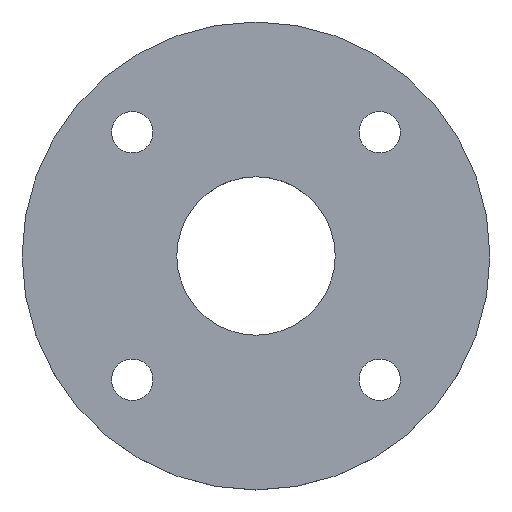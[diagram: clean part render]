
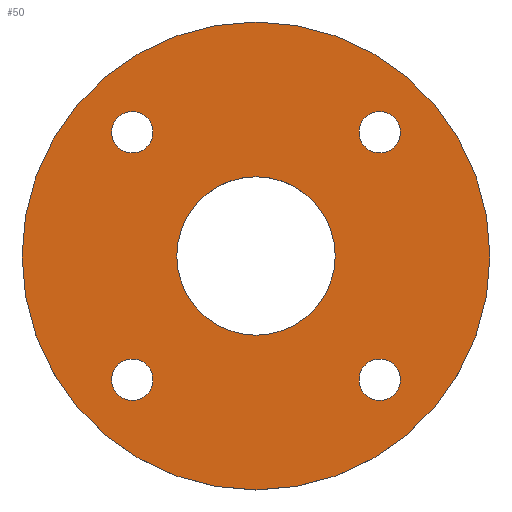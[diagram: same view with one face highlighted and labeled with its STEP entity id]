
A CAD part, top view. The second image highlights one B-rep face of the part: STEP entity #50.
In plain terms, the highlighted planar face has unit normal (0, 0, 1).
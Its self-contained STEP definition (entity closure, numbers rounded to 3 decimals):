
#21 = EDGE_CURVE('',#22,#22,#24,.T.);
#22 = VERTEX_POINT('',#23);
#23 = CARTESIAN_POINT('',(25.4,0.,22.));
#24 = CIRCLE('',#25,25.4);
#25 = AXIS2_PLACEMENT_3D('',#26,#27,#28);
#26 = CARTESIAN_POINT('',(0.,0.,22.));
#27 = DIRECTION('',(0.,0.,1.));
#28 = DIRECTION('',(1.,0.,0.));
#50 = ADVANCED_FACE('',(#51,#54,#65,#76,#87,#98),#109,.T.);
#51 = FACE_BOUND('',#52,.T.);
#52 = EDGE_LOOP('',(#53));
#53 = ORIENTED_EDGE('',*,*,#21,.T.);
#54 = FACE_BOUND('',#55,.T.);
#55 = EDGE_LOOP('',(#56));
#56 = ORIENTED_EDGE('',*,*,#57,.F.);
#57 = EDGE_CURVE('',#58,#58,#60,.T.);
#58 = VERTEX_POINT('',#59);
#59 = CARTESIAN_POINT('',(-11.185,-13.435,22.));
#60 = CIRCLE('',#61,2.25);
#61 = AXIS2_PLACEMENT_3D('',#62,#63,#64);
#62 = CARTESIAN_POINT('',(-13.435,-13.435,22.));
#63 = DIRECTION('',(0.,0.,1.));
#64 = DIRECTION('',(1.,0.,0.));
#65 = FACE_BOUND('',#66,.T.);
#66 = EDGE_LOOP('',(#67));
#67 = ORIENTED_EDGE('',*,*,#68,.F.);
#68 = EDGE_CURVE('',#69,#69,#71,.T.);
#69 = VERTEX_POINT('',#70);
#70 = CARTESIAN_POINT('',(15.685,-13.435,22.));
#71 = CIRCLE('',#72,2.25);
#72 = AXIS2_PLACEMENT_3D('',#73,#74,#75);
#73 = CARTESIAN_POINT('',(13.435,-13.435,22.));
#74 = DIRECTION('',(0.,0.,1.));
#75 = DIRECTION('',(1.,0.,0.));
#76 = FACE_BOUND('',#77,.T.);
#77 = EDGE_LOOP('',(#78));
#78 = ORIENTED_EDGE('',*,*,#79,.F.);
#79 = EDGE_CURVE('',#80,#80,#82,.T.);
#80 = VERTEX_POINT('',#81);
#81 = CARTESIAN_POINT('',(-11.185,13.435,22.));
#82 = CIRCLE('',#83,2.25);
#83 = AXIS2_PLACEMENT_3D('',#84,#85,#86);
#84 = CARTESIAN_POINT('',(-13.435,13.435,22.));
#85 = DIRECTION('',(0.,0.,1.));
#86 = DIRECTION('',(1.,0.,0.));
#87 = FACE_BOUND('',#88,.T.);
#88 = EDGE_LOOP('',(#89));
#89 = ORIENTED_EDGE('',*,*,#90,.F.);
#90 = EDGE_CURVE('',#91,#91,#93,.T.);
#91 = VERTEX_POINT('',#92);
#92 = CARTESIAN_POINT('',(8.6,0.,22.));
#93 = CIRCLE('',#94,8.6);
#94 = AXIS2_PLACEMENT_3D('',#95,#96,#97);
#95 = CARTESIAN_POINT('',(0.,0.,22.));
#96 = DIRECTION('',(0.,0.,1.));
#97 = DIRECTION('',(1.,0.,0.));
#98 = FACE_BOUND('',#99,.T.);
#99 = EDGE_LOOP('',(#100));
#100 = ORIENTED_EDGE('',*,*,#101,.F.);
#101 = EDGE_CURVE('',#102,#102,#104,.T.);
#102 = VERTEX_POINT('',#103);
#103 = CARTESIAN_POINT('',(15.685,13.435,22.));
#104 = CIRCLE('',#105,2.25);
#105 = AXIS2_PLACEMENT_3D('',#106,#107,#108);
#106 = CARTESIAN_POINT('',(13.435,13.435,22.));
#107 = DIRECTION('',(0.,0.,1.));
#108 = DIRECTION('',(1.,0.,0.));
#109 = PLANE('',#110);
#110 = AXIS2_PLACEMENT_3D('',#111,#112,#113);
#111 = CARTESIAN_POINT('',(0.,0.,22.));
#112 = DIRECTION('',(0.,0.,1.));
#113 = DIRECTION('',(1.,0.,0.));
